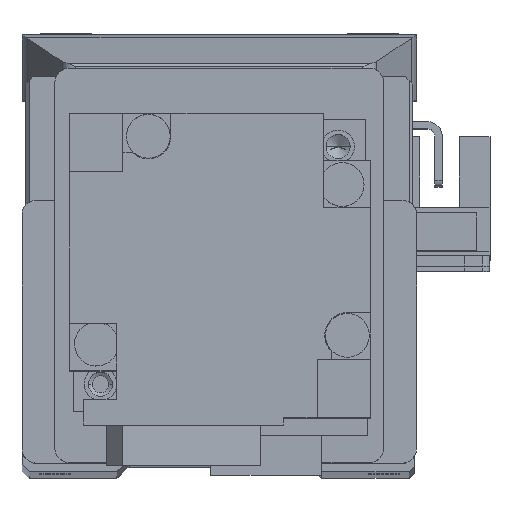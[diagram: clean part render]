
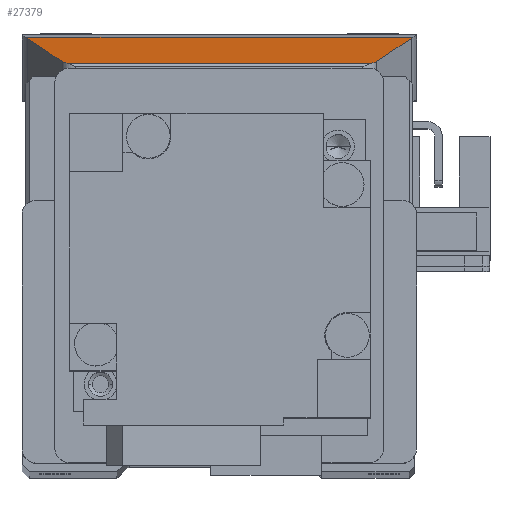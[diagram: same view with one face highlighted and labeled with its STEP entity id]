
A CAD part, top view. The second image highlights one B-rep face of the part: STEP entity #27379.
In plain terms, the highlighted planar face has unit normal (0, 0.966, 0.258).
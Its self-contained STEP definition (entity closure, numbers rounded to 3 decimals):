
#294 = LINE ( 'NONE', #9419, #17660 ) ;
#909 = EDGE_CURVE ( 'NONE', #2124, #30930, #8135, .T. ) ;
#1484 = DIRECTION ( 'NONE',  ( 0., -0.966, -0.258 ) ) ;
#2124 = VERTEX_POINT ( 'NONE', #27488 ) ;
#2141 = FACE_OUTER_BOUND ( 'NONE', #3438, .T. ) ;
#2145 = CARTESIAN_POINT ( 'NONE',  ( 26.418, 49.815, 44.442 ) ) ;
#2722 = CARTESIAN_POINT ( 'NONE',  ( -26.477, 49.862, 44.266 ) ) ;
#2932 = CARTESIAN_POINT ( 'NONE',  ( 21.503, 46.535, 56.743 ) ) ;
#3438 = EDGE_LOOP ( 'NONE', ( #32958, #32885, #16825, #10053, #33488, #31326, #8267, #23052 ) ) ;
#3498 = CARTESIAN_POINT ( 'NONE',  ( 21.503, 46.535, 56.743 ) ) ;
#3925 = LINE ( 'NONE', #19601, #27967 ) ;
#5019 = CARTESIAN_POINT ( 'NONE',  ( 26.354, 49.769, 44.616 ) ) ;
#5066 = CARTESIAN_POINT ( 'NONE',  ( -26.354, 49.769, 44.616 ) ) ;
#5454 = CARTESIAN_POINT ( 'NONE',  ( -20.806, 46.299, 57.629 ) ) ;
#5798 = CARTESIAN_POINT ( 'NONE',  ( 21.36, 46.44, 57.101 ) ) ;
#5833 = EDGE_CURVE ( 'NONE', #35387, #27471, #31661, .T. ) ;
#6517 = LINE ( 'NONE', #10355, #18078 ) ;
#6830 = VERTEX_POINT ( 'NONE', #19857 ) ;
#7324 = PLANE ( 'NONE',  #18907 ) ;
#7490 = CARTESIAN_POINT ( 'NONE',  ( 26.477, 49.862, 44.266 ) ) ;
#8135 =( BOUNDED_CURVE ( )  B_SPLINE_CURVE ( 3, ( #26272, #29618, #35089, #18037 ),
 .UNSPECIFIED., .F., .F. ) 
 B_SPLINE_CURVE_WITH_KNOTS ( ( 4, 4 ),
 ( 1.951, 2.523 ),
 .UNSPECIFIED. ) 
 CURVE ( )  GEOMETRIC_REPRESENTATION_ITEM ( )  RATIONAL_B_SPLINE_CURVE ( ( 1., 0.973, 0.973, 1. ) ) 
 REPRESENTATION_ITEM ( '' )  );
#8159 =( BOUNDED_CURVE ( )  B_SPLINE_CURVE ( 3, ( #24757, #5019, #2145, #7490 ),
 .UNSPECIFIED., .F., .F. ) 
 B_SPLINE_CURVE_WITH_KNOTS ( ( 4, 4 ),
 ( 4.332, 4.388 ),
 .UNSPECIFIED. ) 
 CURVE ( )  GEOMETRIC_REPRESENTATION_ITEM ( )  RATIONAL_B_SPLINE_CURVE ( ( 1., 1., 1., 1. ) ) 
 REPRESENTATION_ITEM ( '' )  );
#8267 = ORIENTED_EDGE ( 'NONE', *, *, #9364, .F. ) ;
#8766 = CARTESIAN_POINT ( 'NONE',  ( 20.806, 46.299, 57.629 ) ) ;
#9364 = EDGE_CURVE ( 'NONE', #15115, #30930, #3925, .T. ) ;
#9419 = CARTESIAN_POINT ( 'NONE',  ( -14.891, 42.127, 73.273 ) ) ;
#10053 = ORIENTED_EDGE ( 'NONE', *, *, #16382, .T. ) ;
#10171 =( BOUNDED_CURVE ( )  B_SPLINE_CURVE ( 3, ( #8766, #25560, #5798, #2932 ),
 .UNSPECIFIED., .F., .F. ) 
 B_SPLINE_CURVE_WITH_KNOTS ( ( 4, 4 ),
 ( 3.761, 4.332 ),
 .UNSPECIFIED. ) 
 CURVE ( )  GEOMETRIC_REPRESENTATION_ITEM ( )  RATIONAL_B_SPLINE_CURVE ( ( 1., 0.973, 0.973, 1. ) ) 
 REPRESENTATION_ITEM ( '' )  );
#10280 = CARTESIAN_POINT ( 'NONE',  ( 26.285, 49.723, 44.788 ) ) ;
#10355 = CARTESIAN_POINT ( 'NONE',  ( 27., 49.862, 44.266 ) ) ;
#12488 = EDGE_CURVE ( 'NONE', #24462, #2124, #294, .T. ) ;
#12903 = DIRECTION ( 'NONE',  ( 0., 0.258, -0.966 ) ) ;
#13230 = DIRECTION ( 'NONE',  ( -1., 0., 0. ) ) ;
#13506 = DIRECTION ( 'NONE',  ( -1., 0., 0. ) ) ;
#15115 = VERTEX_POINT ( 'NONE', #15704 ) ;
#15704 = CARTESIAN_POINT ( 'NONE',  ( 20.806, 46.299, 57.629 ) ) ;
#16382 = EDGE_CURVE ( 'NONE', #23500, #24462, #20470, .T. ) ;
#16502 = EDGE_CURVE ( 'NONE', #15115, #35387, #10171, .T. ) ;
#16731 = CARTESIAN_POINT ( 'NONE',  ( -26.285, 49.723, 44.788 ) ) ;
#16825 = ORIENTED_EDGE ( 'NONE', *, *, #20565, .T. ) ;
#17660 = VECTOR ( 'NONE', #18481, 1000. ) ;
#18037 = CARTESIAN_POINT ( 'NONE',  ( -20.806, 46.299, 57.629 ) ) ;
#18078 = VECTOR ( 'NONE', #13230, 1000. ) ;
#18481 = DIRECTION ( 'NONE',  ( 0.361, -0.24, 0.901 ) ) ;
#18907 = AXIS2_PLACEMENT_3D ( 'NONE', #26869, #1484, #12903 ) ;
#19601 = CARTESIAN_POINT ( 'NONE',  ( 27., 46.299, 57.629 ) ) ;
#19857 = CARTESIAN_POINT ( 'NONE',  ( 26.477, 49.862, 44.266 ) ) ;
#20470 =( BOUNDED_CURVE ( )  B_SPLINE_CURVE ( 3, ( #27937, #25179, #5066, #16731 ),
 .UNSPECIFIED., .F., .F. ) 
 B_SPLINE_CURVE_WITH_KNOTS ( ( 4, 4 ),
 ( 1.896, 1.951 ),
 .UNSPECIFIED. ) 
 CURVE ( )  GEOMETRIC_REPRESENTATION_ITEM ( )  RATIONAL_B_SPLINE_CURVE ( ( 1., 1., 1., 1. ) ) 
 REPRESENTATION_ITEM ( '' )  );
#20565 = EDGE_CURVE ( 'NONE', #6830, #23500, #6517, .T. ) ;
#23052 = ORIENTED_EDGE ( 'NONE', *, *, #16502, .T. ) ;
#23500 = VERTEX_POINT ( 'NONE', #2722 ) ;
#24462 = VERTEX_POINT ( 'NONE', #26658 ) ;
#24757 = CARTESIAN_POINT ( 'NONE',  ( 26.285, 49.723, 44.788 ) ) ;
#25179 = CARTESIAN_POINT ( 'NONE',  ( -26.418, 49.815, 44.442 ) ) ;
#25560 = CARTESIAN_POINT ( 'NONE',  ( 21.121, 46.359, 57.405 ) ) ;
#26272 = CARTESIAN_POINT ( 'NONE',  ( -21.503, 46.535, 56.743 ) ) ;
#26658 = CARTESIAN_POINT ( 'NONE',  ( -26.285, 49.723, 44.788 ) ) ;
#26869 = CARTESIAN_POINT ( 'NONE',  ( 27., 46.299, 57.629 ) ) ;
#27379 = ADVANCED_FACE ( 'NONE', ( #2141 ), #7324, .F. ) ;
#27471 = VERTEX_POINT ( 'NONE', #10280 ) ;
#27488 = CARTESIAN_POINT ( 'NONE',  ( -21.503, 46.535, 56.743 ) ) ;
#27937 = CARTESIAN_POINT ( 'NONE',  ( -26.477, 49.862, 44.266 ) ) ;
#27967 = VECTOR ( 'NONE', #13506, 1000. ) ;
#28217 = DIRECTION ( 'NONE',  ( 0.361, 0.24, -0.901 ) ) ;
#29618 = CARTESIAN_POINT ( 'NONE',  ( -21.36, 46.44, 57.101 ) ) ;
#30930 = VERTEX_POINT ( 'NONE', #5454 ) ;
#31202 = CARTESIAN_POINT ( 'NONE',  ( 21.909, 46.806, 55.728 ) ) ;
#31326 = ORIENTED_EDGE ( 'NONE', *, *, #909, .T. ) ;
#31661 = LINE ( 'NONE', #31202, #34345 ) ;
#32885 = ORIENTED_EDGE ( 'NONE', *, *, #35135, .T. ) ;
#32958 = ORIENTED_EDGE ( 'NONE', *, *, #5833, .T. ) ;
#33488 = ORIENTED_EDGE ( 'NONE', *, *, #12488, .T. ) ;
#34345 = VECTOR ( 'NONE', #28217, 1000. ) ;
#35089 = CARTESIAN_POINT ( 'NONE',  ( -21.121, 46.359, 57.405 ) ) ;
#35135 = EDGE_CURVE ( 'NONE', #27471, #6830, #8159, .T. ) ;
#35387 = VERTEX_POINT ( 'NONE', #3498 ) ;
